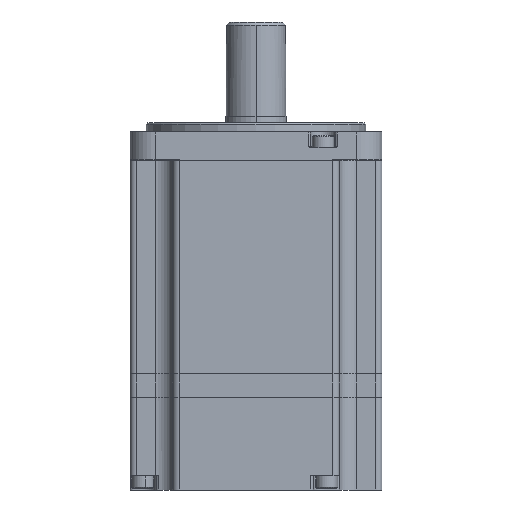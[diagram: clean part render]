
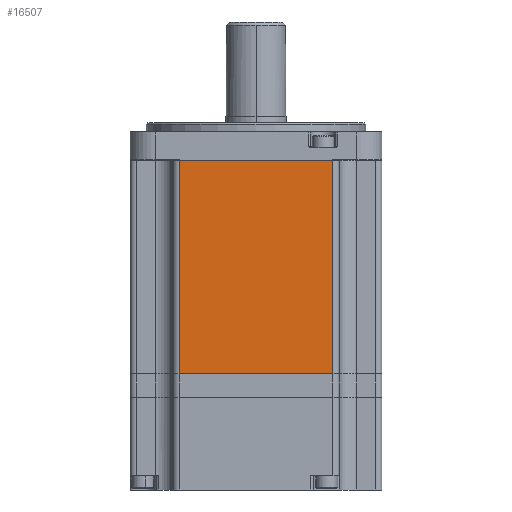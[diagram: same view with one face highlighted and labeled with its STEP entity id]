
A CAD part, front view. The second image highlights one B-rep face of the part: STEP entity #16507.
In plain terms, the highlighted planar face has unit normal (0, -1, 0).
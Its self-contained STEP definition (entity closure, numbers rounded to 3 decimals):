
#9986 = LINE ( 'NONE', #10953, #9988 ) ;
#9988 = VECTOR ( 'NONE', #10951, 1000. ) ;
#10039 = LINE ( 'NONE', #11052, #10044 ) ;
#10044 = VECTOR ( 'NONE', #11051, 1000. ) ;
#10052 = LINE ( 'NONE', #11062, #10057 ) ;
#10054 = LINE ( 'NONE', #11073, #10059 ) ;
#10057 = VECTOR ( 'NONE', #11076, 1000. ) ;
#10059 = VECTOR ( 'NONE', #11078, 1000. ) ;
#10951 = DIRECTION ( 'NONE',  ( 1., 0., 0. ) ) ;
#10953 = CARTESIAN_POINT ( 'NONE',  ( -40.1, -40.1, 68. ) ) ;
#11051 = DIRECTION ( 'NONE',  ( 1., 0., 0. ) ) ;
#11052 = CARTESIAN_POINT ( 'NONE',  ( -40.1, -40.1, 0. ) ) ;
#11062 = CARTESIAN_POINT ( 'NONE',  ( -24.5, -40.1, 68. ) ) ;
#11073 = CARTESIAN_POINT ( 'NONE',  ( 24.5, -40.1, 68. ) ) ;
#11076 = DIRECTION ( 'NONE',  ( 0., 0., -1. ) ) ;
#11078 = DIRECTION ( 'NONE',  ( 0., 0., 1. ) ) ;
#14363 = CARTESIAN_POINT ( 'NONE',  ( 24.5, -40.1, 68. ) ) ;
#14367 = CARTESIAN_POINT ( 'NONE',  ( -24.5, -40.1, 0. ) ) ;
#14543 = CARTESIAN_POINT ( 'NONE',  ( 24.5, -40.1, 0. ) ) ;
#14691 = CARTESIAN_POINT ( 'NONE',  ( -24.5, -40.1, 68. ) ) ;
#16507 = ADVANCED_FACE ( 'NONE', ( #37340 ), #41207, .F. ) ;
#17626 = EDGE_LOOP ( 'NONE', ( #27957, #27959, #27961, #27963 ) ) ;
#27957 = ORIENTED_EDGE ( 'NONE', *, *, #28043, .F. ) ;
#27959 = ORIENTED_EDGE ( 'NONE', *, *, #28144, .T. ) ;
#27961 = ORIENTED_EDGE ( 'NONE', *, *, #28127, .T. ) ;
#27963 = ORIENTED_EDGE ( 'NONE', *, *, #28146, .T. ) ;
#28043 = EDGE_CURVE ( 'NONE', #31261, #30726, #9986, .T. ) ;
#28127 = EDGE_CURVE ( 'NONE', #30733, #31022, #10039, .T. ) ;
#28144 = EDGE_CURVE ( 'NONE', #31261, #30733, #10052, .T. ) ;
#28146 = EDGE_CURVE ( 'NONE', #31022, #30726, #10054, .T. ) ;
#30726 = VERTEX_POINT ( 'NONE', #14363 ) ;
#30733 = VERTEX_POINT ( 'NONE', #14367 ) ;
#31022 = VERTEX_POINT ( 'NONE', #14543 ) ;
#31261 = VERTEX_POINT ( 'NONE', #14691 ) ;
#37340 = FACE_OUTER_BOUND ( 'NONE', #17626, .T. ) ;
#37960 = AXIS2_PLACEMENT_3D ( 'NONE', #41203, #41210, #41211 ) ;
#41203 = CARTESIAN_POINT ( 'NONE',  ( -40.1, -40.1, 68. ) ) ;
#41207 = PLANE ( 'NONE',  #37960 ) ;
#41210 = DIRECTION ( 'NONE',  ( 0., 1., 0. ) ) ;
#41211 = DIRECTION ( 'NONE',  ( 0., 0., 1. ) ) ;
